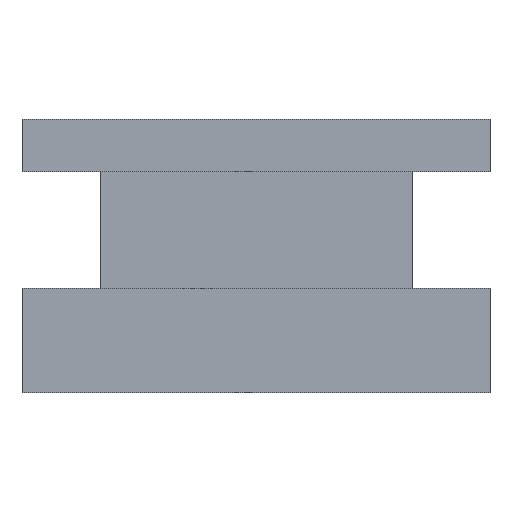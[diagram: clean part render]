
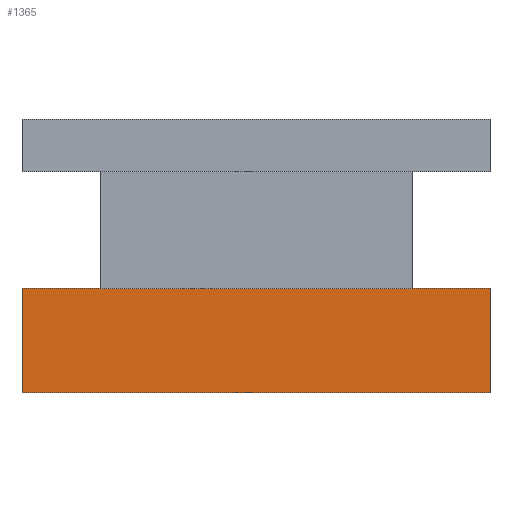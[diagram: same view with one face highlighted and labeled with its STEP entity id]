
A CAD part, front view. The second image highlights one B-rep face of the part: STEP entity #1365.
In plain terms, the highlighted planar face has unit normal (0, -1, 0).
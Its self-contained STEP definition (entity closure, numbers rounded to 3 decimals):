
#607 = PLANE('',#608);
#608 = AXIS2_PLACEMENT_3D('',#609,#610,#611);
#609 = CARTESIAN_POINT('',(0.,35.,0.));
#610 = DIRECTION('',(0.,0.,1.));
#611 = DIRECTION('',(1.,0.,0.));
#667 = PLANE('',#668);
#668 = AXIS2_PLACEMENT_3D('',#669,#670,#671);
#669 = CARTESIAN_POINT('',(0.,35.,8.));
#670 = DIRECTION('',(0.,0.,1.));
#671 = DIRECTION('',(1.,0.,0.));
#749 = VERTEX_POINT('',#750);
#750 = CARTESIAN_POINT('',(30.,35.,8.));
#764 = PLANE('',#765);
#765 = AXIS2_PLACEMENT_3D('',#766,#767,#768);
#766 = CARTESIAN_POINT('',(6.,28.,8.));
#767 = DIRECTION('',(0.,0.,1.));
#768 = DIRECTION('',(1.,0.,0.));
#826 = VERTEX_POINT('',#827);
#827 = CARTESIAN_POINT('',(6.,35.,8.));
#902 = VERTEX_POINT('',#903);
#903 = CARTESIAN_POINT('',(0.,35.,0.));
#919 = PLANE('',#920);
#920 = AXIS2_PLACEMENT_3D('',#921,#922,#923);
#921 = CARTESIAN_POINT('',(0.,35.,0.));
#922 = DIRECTION('',(1.,0.,0.));
#923 = DIRECTION('',(0.,0.,1.));
#931 = EDGE_CURVE('',#902,#932,#934,.T.);
#932 = VERTEX_POINT('',#933);
#933 = CARTESIAN_POINT('',(36.,35.,0.));
#934 = SURFACE_CURVE('',#935,(#939,#946),.PCURVE_S1.);
#935 = LINE('',#936,#937);
#936 = CARTESIAN_POINT('',(0.,35.,0.));
#937 = VECTOR('',#938,1.);
#938 = DIRECTION('',(1.,0.,0.));
#939 = PCURVE('',#607,#940);
#940 = DEFINITIONAL_REPRESENTATION('',(#941),#945);
#941 = LINE('',#942,#943);
#942 = CARTESIAN_POINT('',(0.,0.));
#943 = VECTOR('',#944,1.);
#944 = DIRECTION('',(1.,0.));
#945 = ( GEOMETRIC_REPRESENTATION_CONTEXT(2) 
PARAMETRIC_REPRESENTATION_CONTEXT() REPRESENTATION_CONTEXT('2D SPACE',''
  ) );
#946 = PCURVE('',#947,#952);
#947 = PLANE('',#948);
#948 = AXIS2_PLACEMENT_3D('',#949,#950,#951);
#949 = CARTESIAN_POINT('',(0.,35.,0.));
#950 = DIRECTION('',(0.,1.,0.));
#951 = DIRECTION('',(0.,0.,1.));
#952 = DEFINITIONAL_REPRESENTATION('',(#953),#957);
#953 = LINE('',#954,#955);
#954 = CARTESIAN_POINT('',(0.,0.));
#955 = VECTOR('',#956,1.);
#956 = DIRECTION('',(0.,1.));
#957 = ( GEOMETRIC_REPRESENTATION_CONTEXT(2) 
PARAMETRIC_REPRESENTATION_CONTEXT() REPRESENTATION_CONTEXT('2D SPACE',''
  ) );
#975 = PLANE('',#976);
#976 = AXIS2_PLACEMENT_3D('',#977,#978,#979);
#977 = CARTESIAN_POINT('',(36.,35.,0.));
#978 = DIRECTION('',(1.,0.,0.));
#979 = DIRECTION('',(0.,0.,1.));
#1115 = VERTEX_POINT('',#1116);
#1116 = CARTESIAN_POINT('',(0.,35.,8.));
#1137 = EDGE_CURVE('',#1115,#826,#1138,.T.);
#1138 = SURFACE_CURVE('',#1139,(#1143,#1150),.PCURVE_S1.);
#1139 = LINE('',#1140,#1141);
#1140 = CARTESIAN_POINT('',(0.,35.,8.));
#1141 = VECTOR('',#1142,1.);
#1142 = DIRECTION('',(1.,0.,0.));
#1143 = PCURVE('',#667,#1144);
#1144 = DEFINITIONAL_REPRESENTATION('',(#1145),#1149);
#1145 = LINE('',#1146,#1147);
#1146 = CARTESIAN_POINT('',(0.,0.));
#1147 = VECTOR('',#1148,1.);
#1148 = DIRECTION('',(1.,0.));
#1149 = ( GEOMETRIC_REPRESENTATION_CONTEXT(2) 
PARAMETRIC_REPRESENTATION_CONTEXT() REPRESENTATION_CONTEXT('2D SPACE',''
  ) );
#1150 = PCURVE('',#947,#1151);
#1151 = DEFINITIONAL_REPRESENTATION('',(#1152),#1156);
#1152 = LINE('',#1153,#1154);
#1153 = CARTESIAN_POINT('',(8.,0.));
#1154 = VECTOR('',#1155,1.);
#1155 = DIRECTION('',(0.,1.));
#1156 = ( GEOMETRIC_REPRESENTATION_CONTEXT(2) 
PARAMETRIC_REPRESENTATION_CONTEXT() REPRESENTATION_CONTEXT('2D SPACE',''
  ) );
#1161 = EDGE_CURVE('',#749,#1162,#1164,.T.);
#1162 = VERTEX_POINT('',#1163);
#1163 = CARTESIAN_POINT('',(36.,35.,8.));
#1164 = SURFACE_CURVE('',#1165,(#1169,#1176),.PCURVE_S1.);
#1165 = LINE('',#1166,#1167);
#1166 = CARTESIAN_POINT('',(0.,35.,8.));
#1167 = VECTOR('',#1168,1.);
#1168 = DIRECTION('',(1.,0.,0.));
#1169 = PCURVE('',#667,#1170);
#1170 = DEFINITIONAL_REPRESENTATION('',(#1171),#1175);
#1171 = LINE('',#1172,#1173);
#1172 = CARTESIAN_POINT('',(0.,0.));
#1173 = VECTOR('',#1174,1.);
#1174 = DIRECTION('',(1.,0.));
#1175 = ( GEOMETRIC_REPRESENTATION_CONTEXT(2) 
PARAMETRIC_REPRESENTATION_CONTEXT() REPRESENTATION_CONTEXT('2D SPACE',''
  ) );
#1176 = PCURVE('',#947,#1177);
#1177 = DEFINITIONAL_REPRESENTATION('',(#1178),#1182);
#1178 = LINE('',#1179,#1180);
#1179 = CARTESIAN_POINT('',(8.,0.));
#1180 = VECTOR('',#1181,1.);
#1181 = DIRECTION('',(0.,1.));
#1182 = ( GEOMETRIC_REPRESENTATION_CONTEXT(2) 
PARAMETRIC_REPRESENTATION_CONTEXT() REPRESENTATION_CONTEXT('2D SPACE',''
  ) );
#1271 = EDGE_CURVE('',#826,#749,#1272,.T.);
#1272 = SURFACE_CURVE('',#1273,(#1277,#1284),.PCURVE_S1.);
#1273 = LINE('',#1274,#1275);
#1274 = CARTESIAN_POINT('',(0.,35.,8.));
#1275 = VECTOR('',#1276,1.);
#1276 = DIRECTION('',(1.,0.,0.));
#1277 = PCURVE('',#764,#1278);
#1278 = DEFINITIONAL_REPRESENTATION('',(#1279),#1283);
#1279 = LINE('',#1280,#1281);
#1280 = CARTESIAN_POINT('',(-6.,7.));
#1281 = VECTOR('',#1282,1.);
#1282 = DIRECTION('',(1.,0.));
#1283 = ( GEOMETRIC_REPRESENTATION_CONTEXT(2) 
PARAMETRIC_REPRESENTATION_CONTEXT() REPRESENTATION_CONTEXT('2D SPACE',''
  ) );
#1284 = PCURVE('',#947,#1285);
#1285 = DEFINITIONAL_REPRESENTATION('',(#1286),#1290);
#1286 = LINE('',#1287,#1288);
#1287 = CARTESIAN_POINT('',(8.,0.));
#1288 = VECTOR('',#1289,1.);
#1289 = DIRECTION('',(0.,1.));
#1290 = ( GEOMETRIC_REPRESENTATION_CONTEXT(2) 
PARAMETRIC_REPRESENTATION_CONTEXT() REPRESENTATION_CONTEXT('2D SPACE',''
  ) );
#1295 = EDGE_CURVE('',#902,#1115,#1296,.T.);
#1296 = SURFACE_CURVE('',#1297,(#1301,#1308),.PCURVE_S1.);
#1297 = LINE('',#1298,#1299);
#1298 = CARTESIAN_POINT('',(0.,35.,0.));
#1299 = VECTOR('',#1300,1.);
#1300 = DIRECTION('',(0.,0.,1.));
#1301 = PCURVE('',#919,#1302);
#1302 = DEFINITIONAL_REPRESENTATION('',(#1303),#1307);
#1303 = LINE('',#1304,#1305);
#1304 = CARTESIAN_POINT('',(0.,0.));
#1305 = VECTOR('',#1306,1.);
#1306 = DIRECTION('',(1.,0.));
#1307 = ( GEOMETRIC_REPRESENTATION_CONTEXT(2) 
PARAMETRIC_REPRESENTATION_CONTEXT() REPRESENTATION_CONTEXT('2D SPACE',''
  ) );
#1308 = PCURVE('',#947,#1309);
#1309 = DEFINITIONAL_REPRESENTATION('',(#1310),#1314);
#1310 = LINE('',#1311,#1312);
#1311 = CARTESIAN_POINT('',(0.,0.));
#1312 = VECTOR('',#1313,1.);
#1313 = DIRECTION('',(1.,0.));
#1314 = ( GEOMETRIC_REPRESENTATION_CONTEXT(2) 
PARAMETRIC_REPRESENTATION_CONTEXT() REPRESENTATION_CONTEXT('2D SPACE',''
  ) );
#1365 = ADVANCED_FACE('',(#1366),#947,.F.);
#1366 = FACE_BOUND('',#1367,.F.);
#1367 = EDGE_LOOP('',(#1368,#1369,#1370,#1371,#1372,#1373));
#1368 = ORIENTED_EDGE('',*,*,#931,.F.);
#1369 = ORIENTED_EDGE('',*,*,#1295,.T.);
#1370 = ORIENTED_EDGE('',*,*,#1137,.T.);
#1371 = ORIENTED_EDGE('',*,*,#1271,.T.);
#1372 = ORIENTED_EDGE('',*,*,#1161,.T.);
#1373 = ORIENTED_EDGE('',*,*,#1374,.F.);
#1374 = EDGE_CURVE('',#932,#1162,#1375,.T.);
#1375 = SURFACE_CURVE('',#1376,(#1380,#1387),.PCURVE_S1.);
#1376 = LINE('',#1377,#1378);
#1377 = CARTESIAN_POINT('',(36.,35.,0.));
#1378 = VECTOR('',#1379,1.);
#1379 = DIRECTION('',(0.,0.,1.));
#1380 = PCURVE('',#947,#1381);
#1381 = DEFINITIONAL_REPRESENTATION('',(#1382),#1386);
#1382 = LINE('',#1383,#1384);
#1383 = CARTESIAN_POINT('',(0.,36.));
#1384 = VECTOR('',#1385,1.);
#1385 = DIRECTION('',(1.,0.));
#1386 = ( GEOMETRIC_REPRESENTATION_CONTEXT(2) 
PARAMETRIC_REPRESENTATION_CONTEXT() REPRESENTATION_CONTEXT('2D SPACE',''
  ) );
#1387 = PCURVE('',#975,#1388);
#1388 = DEFINITIONAL_REPRESENTATION('',(#1389),#1393);
#1389 = LINE('',#1390,#1391);
#1390 = CARTESIAN_POINT('',(0.,0.));
#1391 = VECTOR('',#1392,1.);
#1392 = DIRECTION('',(1.,0.));
#1393 = ( GEOMETRIC_REPRESENTATION_CONTEXT(2) 
PARAMETRIC_REPRESENTATION_CONTEXT() REPRESENTATION_CONTEXT('2D SPACE',''
  ) );
